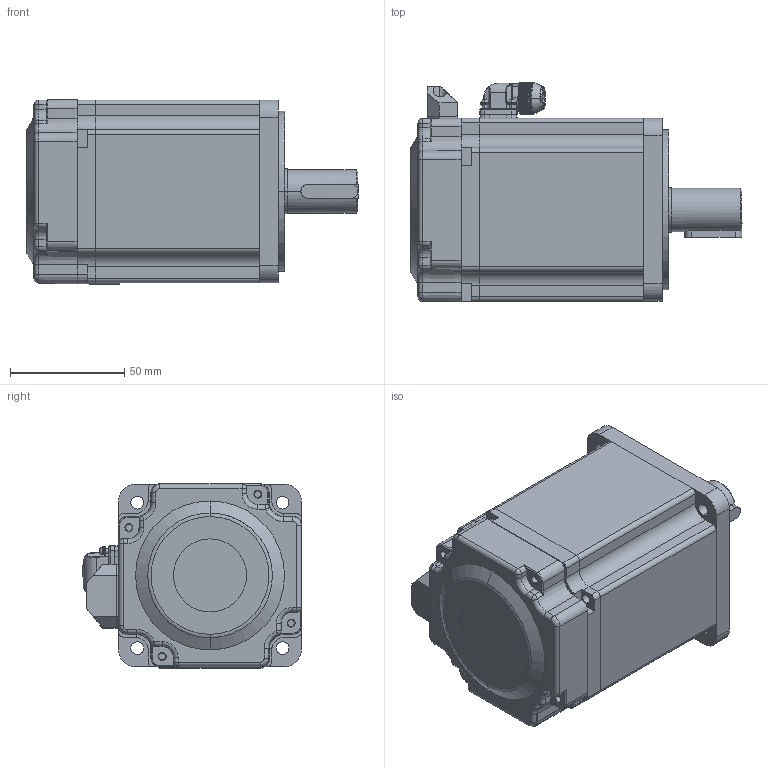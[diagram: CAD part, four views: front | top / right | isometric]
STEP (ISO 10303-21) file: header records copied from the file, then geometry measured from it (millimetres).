
FILE_DESCRIPTION((''),'2;1');
FILE_NAME('_80C-750W__ASM_ASM_ASM','2020-08-13T',('PCBD'),(''),'PRO/ENGINEER BY PARAMETRIC TECHNOLOGY CORPORATION, 2010280','PRO/ENGINEER BY PARAMETRIC TECHNOLOGY CORPORATION, 2010280','');
FILE_SCHEMA(('CONFIG_CONTROL_DESIGN'));
Products named in the file (28): 80-D-QG_1; JK-80C-750_1; HG-80C_1; PRT80-28_2; YF8_1; 80-20_10; PRT0032_1; PRT0033_1; PRT0034_3; PRT0037_2; PRT0038_1; PRT0039_1; PRT0040_1; PRT0041_1; PRT0042_1; PRT0043_1; PRT0044_1; ASM0008_ASM_2_ASM_ASM_ASM; PRT0045_1; ASM0003_ASM_2_ASM_1_ASM_ASM_ASM; ASM0007_ASM_3_ASM_ASM_ASM; 80C-750_ASM_1_ASM_ASM_ASM; PRODUCT_168_1; PRODUCT_1549_1; ASM0006_ASM_1_ASM_ASM; YAKUAI_ASM_1_ASM_ASM; KEY080; _80C-750W__ASM_ASM_ASM
Assembly tree (39 placements, depth 6):
  _80C-750W__ASM_ASM_ASM
    80C-750_ASM_1_ASM_ASM_ASM
      80-D-QG_1
      JK-80C-750_1
      HG-80C_1
      PRT80-28_2
      YF8_1
      80-20_10
      ASM0007_ASM_3_ASM_ASM_ASM
        ASM0003_ASM_2_ASM_1_ASM_ASM_ASM
          PRT0032_1
          PRT0033_1  x4
          PRT0034_3  x4
          PRT0037_2
          PRT0038_1
          PRT0039_1
          PRT0040_1
          PRT0041_1
          ASM0008_ASM_2_ASM_ASM_ASM  x4
            PRT0042_1
            PRT0043_1
            PRT0044_1
          PRT0045_1  x4
    YAKUAI_ASM_1_ASM_ASM
      ASM0006_ASM_1_ASM_ASM
        PRODUCT_168_1
        PRODUCT_1549_1
    KEY080
Bounding box: 145.35 x 96.11 x 80.83 mm (x, y, z)
Volume: 266058.3 mm3; surface area: 136384.8 mm2
Topology: 39 solids, 43 shells, 4625 faces, 11677 edges, 7128 vertices
Faces by surface type: plane 2619, cylinder 909, cone 633, bspline 223, torus 129, sphere 78, extrusion 34
Entity records: 97379 total; most frequent: CARTESIAN_POINT 32593, ORIENTED_EDGE 13876, DIRECTION 12569, EDGE_CURVE 6970, VERTEX_POINT 4377, VECTOR 4213, LINE 4191, AXIS2_PLACEMENT_3D 4178
